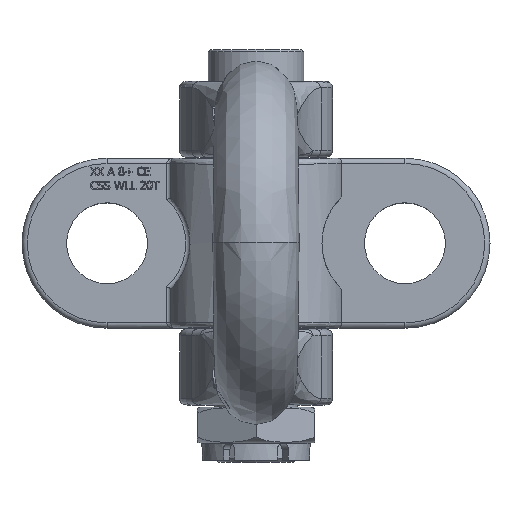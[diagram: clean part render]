
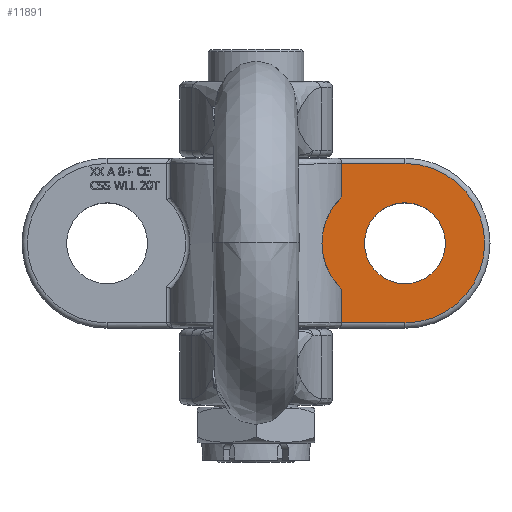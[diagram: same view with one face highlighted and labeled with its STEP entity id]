
A CAD part, top view. The second image highlights one B-rep face of the part: STEP entity #11891.
In plain terms, the highlighted planar face has unit normal (0, 0, 1).
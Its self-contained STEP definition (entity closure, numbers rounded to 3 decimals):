
#1656=LINE('',#18684,#2518);
#1657=LINE('',#18694,#2519);
#1658=LINE('',#18755,#2520);
#1659=LINE('',#18756,#2521);
#2518=VECTOR('',#13977,10.);
#2519=VECTOR('',#13992,10.);
#2520=VECTOR('',#14005,10.);
#2521=VECTOR('',#14006,10.);
#3031=PLANE('',#12592);
#3209=FACE_BOUND('',#4265,.T.);
#3555=FACE_OUTER_BOUND('',#4264,.T.);
#4264=EDGE_LOOP('',(#9460,#9461,#9462,#9463,#9464,#9465));
#4265=EDGE_LOOP('',(#9466));
#4731=CIRCLE('',#12377,19.);
#4757=CIRCLE('',#12583,37.456);
#4760=CIRCLE('',#12590,30.);
#4941=VERTEX_POINT('',#15309);
#5451=VERTEX_POINT('',#18681);
#5452=VERTEX_POINT('',#18683);
#5453=VERTEX_POINT('',#18687);
#5454=VERTEX_POINT('',#18692);
#5455=VERTEX_POINT('',#18698);
#5456=VERTEX_POINT('',#18699);
#6143=EDGE_CURVE('',#4941,#4941,#4731,.T.);
#6907=EDGE_CURVE('',#5451,#5452,#1656,.T.);
#6910=EDGE_CURVE('',#5453,#5451,#4757,.T.);
#6913=EDGE_CURVE('',#5454,#5453,#1657,.T.);
#6916=EDGE_CURVE('',#5455,#5456,#4760,.T.);
#6918=EDGE_CURVE('',#5454,#5456,#1658,.T.);
#6919=EDGE_CURVE('',#5455,#5452,#1659,.T.);
#9460=ORIENTED_EDGE('',*,*,#6913,.F.);
#9461=ORIENTED_EDGE('',*,*,#6918,.T.);
#9462=ORIENTED_EDGE('',*,*,#6916,.F.);
#9463=ORIENTED_EDGE('',*,*,#6919,.T.);
#9464=ORIENTED_EDGE('',*,*,#6907,.F.);
#9465=ORIENTED_EDGE('',*,*,#6910,.F.);
#9466=ORIENTED_EDGE('',*,*,#6143,.T.);
#11891=ADVANCED_FACE('',(#3555,#3209),#3031,.T.);
#12377=AXIS2_PLACEMENT_3D('',#15310,#13073,#13074);
#12583=AXIS2_PLACEMENT_3D('',#18689,#13984,#13985);
#12590=AXIS2_PLACEMENT_3D('',#18726,#13999,#14000);
#12592=AXIS2_PLACEMENT_3D('',#18754,#14003,#14004);
#13073=DIRECTION('center_axis',(0.,0.,-1.));
#13074=DIRECTION('ref_axis',(1.,0.,0.));
#13977=DIRECTION('',(-1.,0.,0.));
#13984=DIRECTION('center_axis',(0.,0.,-1.));
#13985=DIRECTION('ref_axis',(1.,0.,0.));
#13992=DIRECTION('',(1.,0.,0.));
#13999=DIRECTION('center_axis',(0.,0.,-1.));
#14000=DIRECTION('ref_axis',(-1.,0.,0.));
#14003=DIRECTION('center_axis',(0.,0.,1.));
#14004=DIRECTION('ref_axis',(1.,0.,0.));
#14005=DIRECTION('',(0.,-1.,0.));
#14006=DIRECTION('',(0.,-1.,0.));
#15309=CARTESIAN_POINT('',(51.,0.,50.));
#15310=CARTESIAN_POINT('Origin',(70.,0.,50.));
#18681=CARTESIAN_POINT('',(70.,-37.456,50.));
#18683=CARTESIAN_POINT('',(40.395,-37.456,50.));
#18684=CARTESIAN_POINT('',(-35.,-37.456,50.));
#18687=CARTESIAN_POINT('',(70.,37.456,50.));
#18689=CARTESIAN_POINT('Origin',(70.,0.,50.));
#18692=CARTESIAN_POINT('',(40.395,37.456,50.));
#18694=CARTESIAN_POINT('',(35.,37.456,50.));
#18698=CARTESIAN_POINT('',(40.395,-21.804,50.));
#18699=CARTESIAN_POINT('',(40.395,21.804,50.));
#18726=CARTESIAN_POINT('Origin',(61.,0.,50.));
#18754=CARTESIAN_POINT('Origin',(0.,0.,
50.));
#18755=CARTESIAN_POINT('',(40.395,0.,50.));
#18756=CARTESIAN_POINT('',(40.395,0.,50.));
